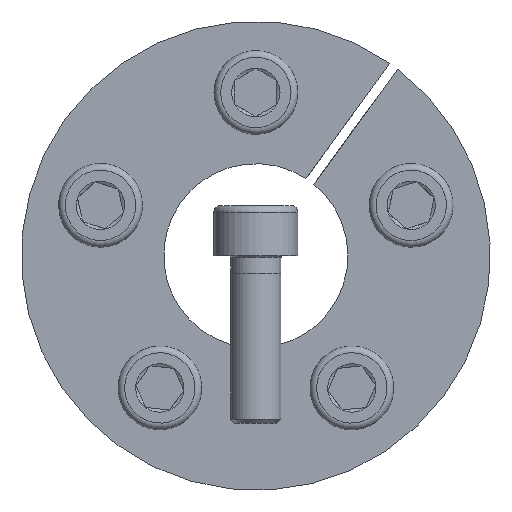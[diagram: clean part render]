
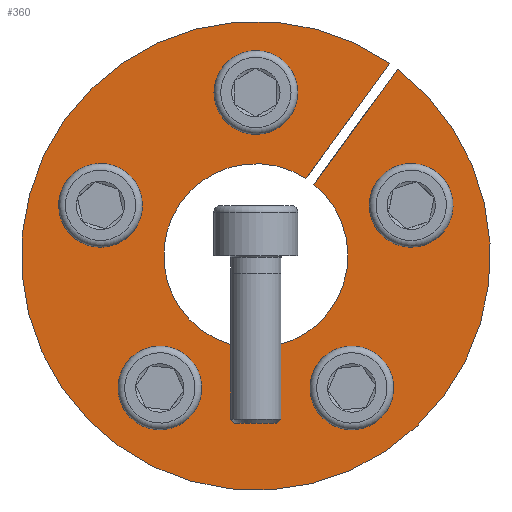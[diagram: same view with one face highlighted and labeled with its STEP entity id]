
A CAD part, front view. The second image highlights one B-rep face of the part: STEP entity #360.
In plain terms, the highlighted planar face has unit normal (0, -1, 0).
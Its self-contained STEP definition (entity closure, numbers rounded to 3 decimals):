
#360 = ADVANCED_FACE( '', ( #560, #561, #562, #563, #564, #565 ), #566, .F. );
#560 = FACE_BOUND( '', #694, .T. );
#561 = FACE_BOUND( '', #695, .T. );
#562 = FACE_BOUND( '', #696, .T. );
#563 = FACE_BOUND( '', #697, .T. );
#564 = FACE_BOUND( '', #698, .T. );
#565 = FACE_OUTER_BOUND( '', #699, .T. );
#566 = PLANE( '', #700 );
#694 = EDGE_LOOP( '', ( #867 ) );
#695 = EDGE_LOOP( '', ( #868 ) );
#696 = EDGE_LOOP( '', ( #869 ) );
#697 = EDGE_LOOP( '', ( #870 ) );
#698 = EDGE_LOOP( '', ( #871 ) );
#699 = EDGE_LOOP( '', ( #872, #873, #874, #875 ) );
#700 = AXIS2_PLACEMENT_3D( '', #876, #877, #878 );
#867 = ORIENTED_EDGE( '', *, *, #1167, .T. );
#868 = ORIENTED_EDGE( '', *, *, #1168, .T. );
#869 = ORIENTED_EDGE( '', *, *, #1169, .T. );
#870 = ORIENTED_EDGE( '', *, *, #1170, .T. );
#871 = ORIENTED_EDGE( '', *, *, #1171, .T. );
#872 = ORIENTED_EDGE( '', *, *, #1172, .T. );
#873 = ORIENTED_EDGE( '', *, *, #1173, .T. );
#874 = ORIENTED_EDGE( '', *, *, #1159, .T. );
#875 = ORIENTED_EDGE( '', *, *, #1174, .F. );
#876 = CARTESIAN_POINT( '', ( 0., 0., 28. ) );
#877 = DIRECTION( '', ( 0., 1., 0. ) );
#878 = DIRECTION( '', ( 0., 0., 1. ) );
#1159 = EDGE_CURVE( '', #1283, #1281, #1284, .T. );
#1167 = EDGE_CURVE( '', #1297, #1297, #1298, .T. );
#1168 = EDGE_CURVE( '', #1299, #1299, #1300, .T. );
#1169 = EDGE_CURVE( '', #1301, #1301, #1302, .T. );
#1170 = EDGE_CURVE( '', #1303, #1303, #1304, .T. );
#1171 = EDGE_CURVE( '', #1305, #1305, #1306, .T. );
#1172 = EDGE_CURVE( '', #1307, #1308, #1309, .T. );
#1173 = EDGE_CURVE( '', #1308, #1283, #1310, .T. );
#1174 = EDGE_CURVE( '', #1307, #1281, #1311, .T. );
#1281 = VERTEX_POINT( '', #1373 );
#1283 = VERTEX_POINT( '', #1376 );
#1284 = LINE( '', #1377, #1378 );
#1297 = VERTEX_POINT( '', #1402 );
#1298 = CIRCLE( '', #1403, 3. );
#1299 = VERTEX_POINT( '', #1404 );
#1300 = CIRCLE( '', #1405, 3. );
#1301 = VERTEX_POINT( '', #1406 );
#1302 = CIRCLE( '', #1407, 3. );
#1303 = VERTEX_POINT( '', #1408 );
#1304 = CIRCLE( '', #1409, 3. );
#1305 = VERTEX_POINT( '', #1410 );
#1306 = CIRCLE( '', #1411, 3. );
#1307 = VERTEX_POINT( '', #1412 );
#1308 = VERTEX_POINT( '', #1413 );
#1309 = LINE( '', #1414, #1415 );
#1310 = CIRCLE( '', #1416, 28. );
#1311 = CIRCLE( '', #1417, 11. );
#1373 = CARTESIAN_POINT( '', ( 6.932, 0., 8.541 ) );
#1376 = CARTESIAN_POINT( '', ( 16.93, 0., 22.302 ) );
#1377 = CARTESIAN_POINT( '', ( 16.933, 0., 22.307 ) );
#1378 = VECTOR( '', #1494, 1000. );
#1402 = CARTESIAN_POINT( '', ( -17.619, 0., 8.879 ) );
#1403 = AXIS2_PLACEMENT_3D( '', #1500, #1501, #1502 );
#1404 = CARTESIAN_POINT( '', ( 9.035, 0., -17.539 ) );
#1405 = AXIS2_PLACEMENT_3D( '', #1503, #1504, #1505 );
#1406 = CARTESIAN_POINT( '', ( 3., 0., 19.5 ) );
#1407 = AXIS2_PLACEMENT_3D( '', #1506, #1507, #1508 );
#1408 = CARTESIAN_POINT( '', ( 19.473, 0., 3.173 ) );
#1409 = AXIS2_PLACEMENT_3D( '', #1509, #1510, #1511 );
#1410 = CARTESIAN_POINT( '', ( -13.889, 0., -14.012 ) );
#1411 = AXIS2_PLACEMENT_3D( '', #1512, #1513, #1514 );
#1412 = CARTESIAN_POINT( '', ( 5.981, 0., 9.232 ) );
#1413 = CARTESIAN_POINT( '', ( 15.979, 0., 22.993 ) );
#1414 = CARTESIAN_POINT( '', ( 5.981, 0., 9.232 ) );
#1415 = VECTOR( '', #1515, 1000. );
#1416 = AXIS2_PLACEMENT_3D( '', #1516, #1517, #1518 );
#1417 = AXIS2_PLACEMENT_3D( '', #1519, #1520, #1521 );
#1494 = DIRECTION( '', ( -0.588, 0., -0.809 ) );
#1500 = CARTESIAN_POINT( '', ( -18.546, 0., 6.026 ) );
#1501 = DIRECTION( '', ( 0., 1., 0. ) );
#1502 = DIRECTION( '', ( 0.309, 0., 0.951 ) );
#1503 = CARTESIAN_POINT( '', ( 11.462, 0., -15.776 ) );
#1504 = DIRECTION( '', ( 0., 1., 0. ) );
#1505 = DIRECTION( '', ( -0.809, 0., -0.588 ) );
#1506 = CARTESIAN_POINT( '', ( 0., 0., 19.5 ) );
#1507 = DIRECTION( '', ( 0., 1., 0. ) );
#1508 = DIRECTION( '', ( 1., 0., 0. ) );
#1509 = CARTESIAN_POINT( '', ( 18.546, 0., 6.026 ) );
#1510 = DIRECTION( '', ( 0., 1., 0. ) );
#1511 = DIRECTION( '', ( 0.309, 0., -0.951 ) );
#1512 = CARTESIAN_POINT( '', ( -11.462, 0., -15.776 ) );
#1513 = DIRECTION( '', ( 0., 1., 0. ) );
#1514 = DIRECTION( '', ( -0.809, 0., 0.588 ) );
#1515 = DIRECTION( '', ( 0.588, 0., 0.809 ) );
#1516 = CARTESIAN_POINT( '', ( 0., 0., 0. ) );
#1517 = DIRECTION( '', ( 0., -1., 0. ) );
#1518 = DIRECTION( '', ( 0., 0., -1. ) );
#1519 = CARTESIAN_POINT( '', ( 0., 0., 0. ) );
#1520 = DIRECTION( '', ( 0., -1., 0. ) );
#1521 = DIRECTION( '', ( 0., 0., -1. ) );
